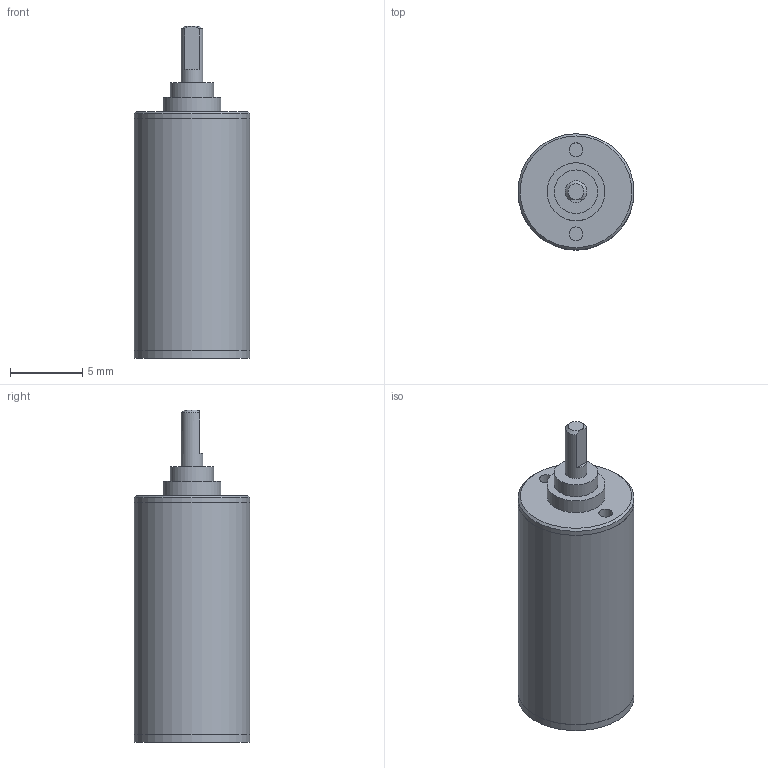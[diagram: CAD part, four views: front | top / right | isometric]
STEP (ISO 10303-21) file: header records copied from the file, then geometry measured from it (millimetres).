
FILE_DESCRIPTION(/* description */ (''),/* implementation_level */ '2;1');
FILE_NAME(/* name */ '08-2_5.stp',/* time_stamp */ '2016-08-23T14:02:51+02:00',/* author */ ('DR. FRITZ FAULHABER GmbH & Co. KG'),/* organization */ ('DR. FRITZ FAULHABER GmbH & Co. KG'),/* preprocessor_version */ 'ST-DEVELOPER v16',/* originating_system */ 'SIEMENS PLM Software NX 10.0',/* authorisation */ '');
FILE_SCHEMA (('AUTOMOTIVE_DESIGN { 1 0 10303 214 3 1 1 1 }'));
Length unit declared in the file: millimetre
Products named in the file (1): H00000391_A
Bounding box: 8 x 8 x 22.9 mm (x, y, z)
Volume: 809.4 mm3; surface area: 635.1 mm2
Topology: 1 solids, 1 shells, 33 faces, 56 edges, 37 vertices
Faces by surface type: plane 16, cylinder 14, cone 3
Full cylindrical faces by diameter (mm): 0.95 x2, 1.5 x1, 2.13 x1, 2.53 x1, 3 x1, 4 x1, 4.959 x1, 6 x1, 7.99 x2, 8 x3
Entity records: 709 total; most frequent: DIRECTION 133, CARTESIAN_POINT 115, ORIENTED_EDGE 72, AXIS2_PLACEMENT_3D 65, EDGE_LOOP 61, FACE_BOUND 54, EDGE_CURVE 36, ADVANCED_FACE 33
